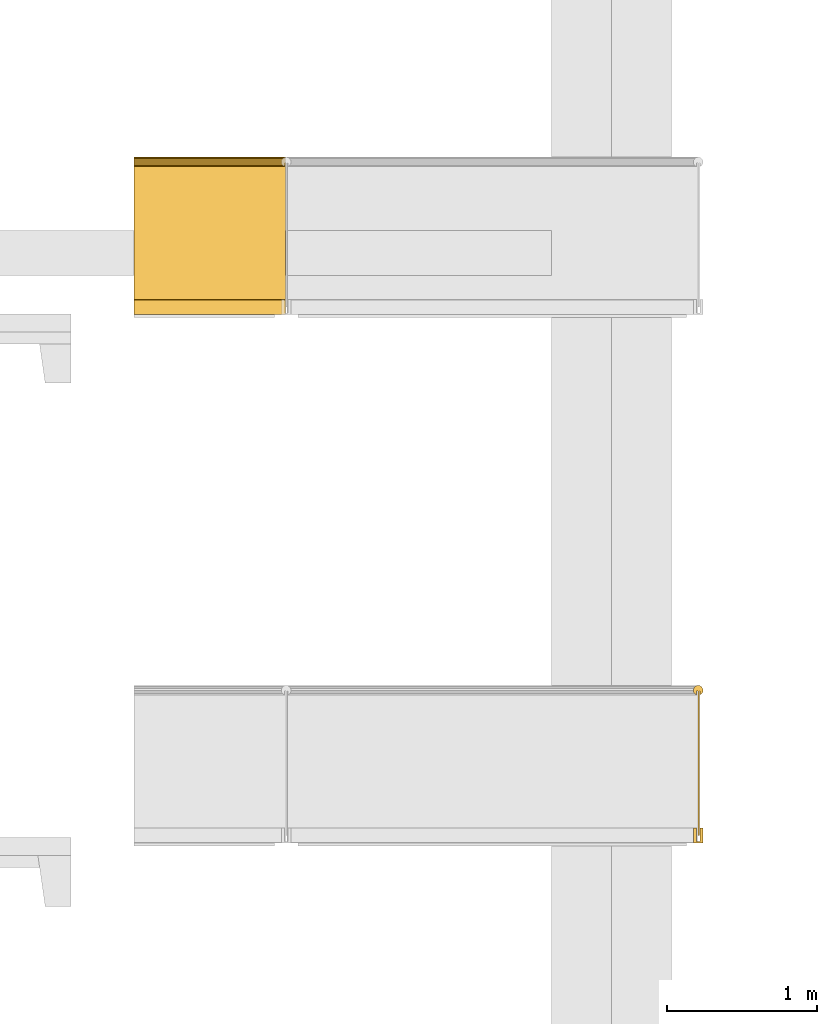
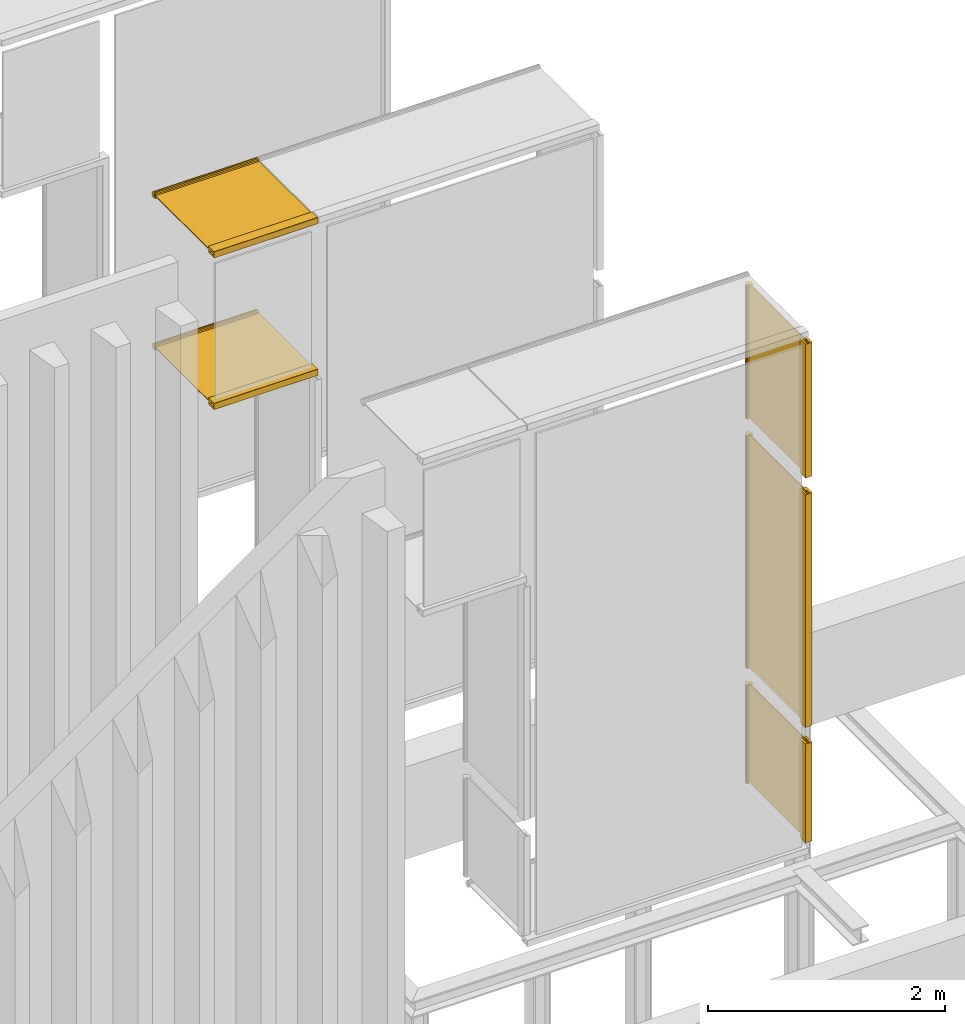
# One storey, part 8 of 15: 5 railings.
"""IFC2X3 building model written with IfcOpenShell, lengths in metres."""

from ifc_helpers import new_model, entity, si_unit, converted_unit, derived_unit, money_unit, direction, frame, origin_with_axes, place, context, subcontext, project, spatial, faceted_brep, material, type_object, element, save


model = new_model("IFC2X3")

# Units and contexts
model_context = context("Model", 3, precision=1e-05, world=origin_with_axes(), true_north=direction((0.0, 1.0)))
body_context = subcontext(model_context, "Body", "Model", "MODEL_VIEW", scale=1.0)
ifc_project = project(units=[si_unit("LENGTHUNIT", "METRE"), si_unit("AREAUNIT", "SQUARE_METRE"), si_unit("VOLUMEUNIT", "CUBIC_METRE"), si_unit("ABSORBEDDOSEUNIT", "GRAY"), si_unit("AMOUNTOFSUBSTANCEUNIT", "MOLE"), si_unit("DOSEEQUIVALENTUNIT", "SIEVERT"), si_unit("ELECTRICCAPACITANCEUNIT", "FARAD"), si_unit("ELECTRICCHARGEUNIT", "COULOMB"), si_unit("ELECTRICCONDUCTANCEUNIT", "SIEMENS"), si_unit("ELECTRICCURRENTUNIT", "AMPERE"), si_unit("ELECTRICRESISTANCEUNIT", "OHM"), si_unit("ELECTRICVOLTAGEUNIT", "VOLT"), si_unit("ENERGYUNIT", "JOULE"), si_unit("FORCEUNIT", "NEWTON"), si_unit("FREQUENCYUNIT", "HERTZ"), si_unit("ILLUMINANCEUNIT", "LUX"), si_unit("INDUCTANCEUNIT", "HENRY"), si_unit("LUMINOUSFLUXUNIT", "LUMEN"), si_unit("LUMINOUSINTENSITYUNIT", "CANDELA"), si_unit("MAGNETICFLUXDENSITYUNIT", "TESLA"), si_unit("MAGNETICFLUXUNIT", "WEBER"), si_unit("MASSUNIT", "GRAM"), converted_unit("PLANEANGLEUNIT", "degree", entity("IfcReal", 0.0174532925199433), si_unit("PLANEANGLEUNIT", "RADIAN"), dimensions=[0, 0, 0, 0, 0, 0, 0]), si_unit("POWERUNIT", "WATT"), si_unit("PRESSUREUNIT", "PASCAL"), si_unit("RADIOACTIVITYUNIT", "BECQUEREL"), si_unit("SOLIDANGLEUNIT", "STERADIAN"), si_unit("THERMODYNAMICTEMPERATUREUNIT", "KELVIN"), si_unit("TIMEUNIT", "SECOND"), derived_unit("ACCELERATIONUNIT", [(si_unit("LENGTHUNIT", "METRE"), 1), (si_unit("TIMEUNIT", "SECOND"), -2)]), derived_unit("ANGULARVELOCITYUNIT", [(converted_unit("PLANEANGLEUNIT", "degree", entity("IfcReal", 0.0174532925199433), si_unit("PLANEANGLEUNIT", "RADIAN"), dimensions=[0, 0, 0, 0, 0, 0, 0]), 1), (si_unit("TIMEUNIT", "SECOND"), -1)]), derived_unit("CURVATUREUNIT", [(converted_unit("PLANEANGLEUNIT", "degree", entity("IfcReal", 0.0174532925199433), si_unit("PLANEANGLEUNIT", "RADIAN"), dimensions=[0, 0, 0, 0, 0, 0, 0]), 1), (si_unit("LENGTHUNIT", "METRE"), -1)]), derived_unit("DYNAMICVISCOSITYUNIT", [(si_unit("PRESSUREUNIT", "PASCAL"), 1), (si_unit("TIMEUNIT", "SECOND"), 1)]), derived_unit("HEATFLUXDENSITYUNIT", [(si_unit("POWERUNIT", "WATT"), 1), (si_unit("LENGTHUNIT", "METRE"), -2)]), derived_unit("HEATINGVALUEUNIT", [(si_unit("ENERGYUNIT", "JOULE"), 1), (si_unit("MASSUNIT", "GRAM"), -1)]), derived_unit("INTEGERCOUNTRATEUNIT", [(si_unit("TIMEUNIT", "SECOND"), -1)]), derived_unit("IONCONCENTRATIONUNIT", [(si_unit("MASSUNIT", "GRAM"), 1), (si_unit("VOLUMEUNIT", "CUBIC_METRE"), -1)]), derived_unit("ISOTHERMALMOISTURECAPACITYUNIT", [(si_unit("VOLUMEUNIT", "CUBIC_METRE"), 1), (si_unit("MASSUNIT", "GRAM"), -1)]), derived_unit("KINEMATICVISCOSITYUNIT", [(si_unit("AREAUNIT", "SQUARE_METRE"), 1), (si_unit("TIMEUNIT", "SECOND"), -1)]), derived_unit("LINEARFORCEUNIT", [(si_unit("FORCEUNIT", "NEWTON"), 1), (si_unit("LENGTHUNIT", "METRE"), -1)]), derived_unit("LINEARMOMENTUNIT", [(si_unit("FORCEUNIT", "NEWTON"), 1), (si_unit("LENGTHUNIT", "METRE"), -1)]), derived_unit("LINEARSTIFFNESSUNIT", [(si_unit("FORCEUNIT", "NEWTON"), 1), (si_unit("LENGTHUNIT", "METRE"), -1)]), derived_unit("LINEARVELOCITYUNIT", [(si_unit("LENGTHUNIT", "METRE"), 1), (si_unit("TIMEUNIT", "SECOND"), -1)]), derived_unit("LUMINOUSINTENSITYDISTRIBUTIONUNIT", [(si_unit("LUMINOUSINTENSITYUNIT", "CANDELA"), 1), (si_unit("LUMINOUSFLUXUNIT", "LUMEN"), -1)]), derived_unit("MASSDENSITYUNIT", [(si_unit("MASSUNIT", "GRAM"), 1), (si_unit("VOLUMEUNIT", "CUBIC_METRE"), -1)]), derived_unit("MASSFLOWRATEUNIT", [(si_unit("MASSUNIT", "GRAM"), 1), (si_unit("TIMEUNIT", "SECOND"), -1)]), derived_unit("MASSPERLENGTHUNIT", [(si_unit("MASSUNIT", "GRAM"), 1), (si_unit("LENGTHUNIT", "METRE"), -1)]), derived_unit("MODULUSOFELASTICITYUNIT", [(si_unit("FORCEUNIT", "NEWTON"), 1), (si_unit("AREAUNIT", "SQUARE_METRE"), -1)]), derived_unit("MODULUSOFLINEARSUBGRADEREACTIONUNIT", [(si_unit("FORCEUNIT", "NEWTON"), 1), (si_unit("LENGTHUNIT", "METRE"), -2)]), derived_unit("MODULUSOFROTATIONALSUBGRADEREACTIONUNIT", [(si_unit("FORCEUNIT", "NEWTON"), 1), (si_unit("LENGTHUNIT", "METRE"), 1)]), derived_unit("MODULUSOFSUBGRADEREACTIONUNIT", [(si_unit("FORCEUNIT", "NEWTON"), 1), (si_unit("VOLUMEUNIT", "CUBIC_METRE"), -1)]), derived_unit("MOISTUREDIFFUSIVITYUNIT", [(si_unit("VOLUMEUNIT", "CUBIC_METRE"), 1), (si_unit("TIMEUNIT", "SECOND"), -1)]), derived_unit("MOLECULARWEIGHTUNIT", [(si_unit("MASSUNIT", "GRAM"), 1), (si_unit("AMOUNTOFSUBSTANCEUNIT", "MOLE"), -1)]), derived_unit("PLANARFORCEUNIT", [(si_unit("FORCEUNIT", "NEWTON"), 1), (si_unit("LENGTHUNIT", "METRE"), -2)]), derived_unit("ROTATIONALFREQUENCYUNIT", [(si_unit("TIMEUNIT", "SECOND"), -1)]), derived_unit("ROTATIONALMASSUNIT", [(si_unit("MASSUNIT", "GRAM"), 1), (si_unit("LENGTHUNIT", "METRE"), 2)]), derived_unit("ROTATIONALSTIFFNESSUNIT", [(si_unit("FORCEUNIT", "NEWTON"), 1), (si_unit("LENGTHUNIT", "METRE"), 1), (converted_unit("PLANEANGLEUNIT", "degree", entity("IfcReal", 0.0174532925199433), si_unit("PLANEANGLEUNIT", "RADIAN"), dimensions=[0, 0, 0, 0, 0, 0, 0]), -1)]), derived_unit("SECTIONAREAINTEGRALUNIT", [(si_unit("LENGTHUNIT", "METRE"), 5)]), derived_unit("SECTIONMODULUSUNIT", [(si_unit("LENGTHUNIT", "METRE"), 3)]), derived_unit("SHEARMODULUSUNIT", [(si_unit("FORCEUNIT", "NEWTON"), 1), (si_unit("AREAUNIT", "SQUARE_METRE"), -1)]), derived_unit("SOUNDPOWERUNIT", [(si_unit("ENERGYUNIT", "JOULE"), 1), (si_unit("TIMEUNIT", "SECOND"), -1)]), derived_unit("SPECIFICHEATCAPACITYUNIT", [(si_unit("FORCEUNIT", "NEWTON"), 1), (si_unit("MASSUNIT", "GRAM"), -1), (si_unit("THERMODYNAMICTEMPERATUREUNIT", "KELVIN"), -1)]), derived_unit("TEMPERATUREGRADIENTUNIT", [(si_unit("THERMODYNAMICTEMPERATUREUNIT", "KELVIN"), 1), (si_unit("LENGTHUNIT", "METRE"), -1)]), derived_unit("THERMALADMITTANCEUNIT", [(si_unit("POWERUNIT", "WATT"), 1), (si_unit("AREAUNIT", "SQUARE_METRE"), -1), (si_unit("THERMODYNAMICTEMPERATUREUNIT", "KELVIN"), -1)]), derived_unit("THERMALCONDUCTANCEUNIT", [(si_unit("POWERUNIT", "WATT"), 1), (si_unit("LENGTHUNIT", "METRE"), -1), (si_unit("THERMODYNAMICTEMPERATUREUNIT", "KELVIN"), -1)]), derived_unit("THERMALEXPANSIONCOEFFICIENTUNIT", [(si_unit("THERMODYNAMICTEMPERATUREUNIT", "KELVIN"), -1)]), derived_unit("THERMALRESISTANCEUNIT", [(si_unit("AREAUNIT", "SQUARE_METRE"), 1), (si_unit("POWERUNIT", "WATT"), -1)]), derived_unit("THERMALTRANSMITTANCEUNIT", [(si_unit("POWERUNIT", "WATT"), 1), (si_unit("AREAUNIT", "SQUARE_METRE"), -1), (si_unit("THERMODYNAMICTEMPERATUREUNIT", "KELVIN"), -1)]), derived_unit("TORQUEUNIT", [(si_unit("FORCEUNIT", "NEWTON"), 1), (si_unit("LENGTHUNIT", "METRE"), 1)]), derived_unit("VAPORPERMEABILITYUNIT", [(si_unit("MASSUNIT", "GRAM"), 1), (si_unit("TIMEUNIT", "SECOND"), -1)]), derived_unit("VOLUMETRICFLOWRATEUNIT", [(si_unit("VOLUMEUNIT", "CUBIC_METRE"), 1), (si_unit("TIMEUNIT", "SECOND"), -1)]), derived_unit("WARPINGCONSTANTUNIT", [(si_unit("LENGTHUNIT", "METRE"), 6)]), derived_unit("WARPINGMOMENTUNIT", [(si_unit("FORCEUNIT", "NEWTON"), 1), (si_unit("LENGTHUNIT", "METRE"), 2)]), money_unit("GBP")], contexts=[model_context])

# Site, building, storey
site_placement = place(None, origin_with_axes())
site = spatial("IfcSite", under=ifc_project, at=site_placement, Name="Site", CompositionType="ELEMENT")
building_placement = place(site_placement, origin_with_axes())
building = spatial("IfcBuilding", under=site, at=building_placement, Name="Building01", CompositionType="ELEMENT")
storey_placement = place(building_placement, origin_with_axes())
storey = spatial("IfcBuildingStorey", under=building, at=storey_placement, Name="GF", CompositionType="ELEMENT", Elevation=0.0)

# Railings
ifc_material = material(Name="A_BSUK_Steel_Miscellaneous")
railing_type = type_object("IfcRailingType", Name="A-RailingGlassPanel-1050mm", PredefinedType="NOTDEFINED")
railing_1_placement = place(storey_placement, frame((14.9, 8.587442, 26.411335), z_axis=(0.0, 1.0, 0.0), x_axis=(0.0, 0.0, 1.0)))
element("IfcRailing", 1, at=railing_1_placement, inside=storey, type_object=railing_type, material=ifc_material, Name="A-RailingGlassPanel-1050mm", ObjectType="A-RailingGlassPanel-1050mm", PredefinedType="HANDRAIL", context=body_context, shape_type="Brep", body=[
    faceted_brep([(-0.0125, 1.010381, 0.9875), (-0.0125, 0.0, 0.9875), (-0.023022, 0.0, 0.99456), (-0.023022, 1.010381, 0.99456), (-0.030045, 0.0, 1.005108), (-0.030045, 1.010381, 1.005108), (-0.0325, 0.0, 1.017539), (-0.0325, 1.010381, 1.017539), (-0.030015, 0.0, 1.029964), (-0.030015, 1.010381, 1.029964), (-0.022967, 0.0, 1.040495), (-0.022967, 1.010381, 1.040495), (-0.012428, 0.0, 1.04753), (-0.012428, 1.010381, 1.04753), (0.0, 0.0, 1.05), (0.0, 1.010381, 1.05), (0.012428, 0.0, 1.04753), (0.012428, 1.010381, 1.04753), (0.022967, 0.0, 1.040495), (0.022967, 1.010381, 1.040495), (0.030015, 0.0, 1.029964), (0.030015, 1.010381, 1.029964), (0.0325, 0.0, 1.017539), (0.0325, 1.010381, 1.017539), (0.030045, 0.0, 1.005108), (0.030045, 1.010381, 1.005108), (0.023022, 0.0, 0.99456), (0.023022, 1.010381, 0.99456), (0.0125, 0.0, 0.9875), (0.0125, 1.010381, 0.9875), (-0.0125, 1.010381, 1.0125), (-0.0125, 0.0, 1.0125), (0.0125, 1.010381, 1.0125), (0.0125, 0.0, 1.0125)], [[[0, 1, 2, 3]], [[3, 2, 4, 5]], [[5, 4, 6, 7]], [[7, 6, 8, 9]], [[9, 8, 10, 11]], [[11, 10, 12, 13]], [[13, 12, 14, 15]], [[15, 14, 16, 17]], [[17, 16, 18, 19]], [[19, 18, 20, 21]], [[21, 20, 22, 23]], [[23, 22, 24, 25]], [[25, 24, 26, 27]], [[27, 26, 28, 29]], [[0, 30, 31, 1]], [[30, 32, 33, 31]], [[32, 30, 0, 3, 5, 7, 9, 11, 13, 15, 17, 19, 21, 23, 25, 27, 29]], [[32, 29, 28, 33]], [[28, 26, 24, 22, 20, 18, 16, 14, 12, 10, 8, 6, 4, 2, 1, 31, 33]]]),
    faceted_brep([(-0.0295, 1.010381, 0.099925), (-0.0295, 0.0, 0.099925), (-0.0125, 0.0, 0.099925), (-0.0125, 1.010381, 0.099925), (-0.0325, 1.010381, 0.096925), (-0.0325, 0.0, 0.096925), (-0.032272, 0.0, 0.098073), (-0.032272, 1.010381, 0.098073), (-0.031621, 0.0, 0.099046), (-0.031621, 1.010381, 0.099046), (-0.030648, 0.0, 0.099697), (-0.030648, 1.010381, 0.099697), (-0.0325, 1.010381, 0.003), (-0.0325, 0.0, 0.003), (-0.0295, 1.010381, 0.0), (-0.030648, 1.010381, 0.000228), (-0.031621, 1.010381, 0.000879), (-0.032272, 1.010381, 0.001852), (-0.0125, 1.010381, 0.01), (0.0125, 1.010381, 0.01), (0.0125, 1.010381, 0.099925), (0.0295, 1.010381, 0.099925), (0.030648, 1.010381, 0.099697), (0.031621, 1.010381, 0.099046), (0.032272, 1.010381, 0.098073), (0.0325, 1.010381, 0.096925), (0.0325, 1.010381, 0.003), (0.032272, 1.010381, 0.001852), (0.031621, 1.010381, 0.000879), (0.030648, 1.010381, 0.000228), (0.0295, 1.010381, 0.0), (0.0295, 0.0, 0.0), (0.030648, 0.0, 0.000228), (0.031621, 0.0, 0.000879), (0.032272, 0.0, 0.001852), (0.0325, 0.0, 0.003), (0.0325, 0.0, 0.096925), (0.032272, 0.0, 0.098073), (0.031621, 0.0, 0.099046), (0.030648, 0.0, 0.099697), (0.0295, 0.0, 0.099925), (0.0125, 0.0, 0.099925), (0.0125, 0.0, 0.01), (-0.0125, 0.0, 0.01), (-0.032272, 0.0, 0.001852), (-0.031621, 0.0, 0.000879), (-0.030648, 0.0, 0.000228), (-0.0295, 0.0, 0.0)], [[[0, 1, 2, 3]], [[4, 5, 6, 7]], [[7, 6, 8, 9]], [[9, 8, 10, 11]], [[11, 10, 1, 0]], [[4, 12, 13, 5]], [[14, 15, 16, 17, 12, 4, 7, 9, 11, 0, 3, 18, 19, 20, 21, 22, 23, 24, 25, 26, 27, 28, 29, 30]], [[31, 32, 33, 34, 35, 36, 37, 38, 39, 40, 41, 42, 43, 2, 1, 10, 8, 6, 5, 13, 44, 45, 46, 47]], [[14, 47, 46, 15]], [[15, 46, 45, 16]], [[16, 45, 44, 17]], [[17, 44, 13, 12]], [[14, 30, 31, 47]], [[26, 35, 34, 27]], [[27, 34, 33, 28]], [[28, 33, 32, 29]], [[29, 32, 31, 30]], [[26, 25, 36, 35]], [[21, 40, 39, 22]], [[22, 39, 38, 23]], [[23, 38, 37, 24]], [[24, 37, 36, 25]], [[21, 20, 41, 40]], [[20, 19, 42, 41]], [[19, 18, 43, 42]], [[18, 3, 2, 43]]]),
    faceted_brep([(0.0, 0.0, 0.05), (0.0, 0.0, 1.025), (0.0, 1.010381, 1.025), (0.0, 1.010381, 0.05), (0.01, 1.010381, 0.05), (0.01, 1.010381, 1.025), (0.01, 0.0, 1.025), (0.01, 0.0, 0.05)], [[[0, 1, 2, 3]], [[4, 5, 6, 7]], [[0, 7, 6, 1]], [[1, 6, 5, 2]], [[2, 5, 4, 3]], [[3, 4, 7, 0]]]),
])
railing_2_placement = place(storey_placement, frame((18.663481, 5.064467, 22.199835), z_axis=(0.0, 1.0, 0.0), x_axis=(0.0, 0.0, 1.0)))
element("IfcRailing", 2, at=railing_2_placement, inside=storey, type_object=railing_type, material=ifc_material, Name="A-RailingGlassPanel-1050mm", ObjectType="A-RailingGlassPanel-1050mm", PredefinedType="HANDRAIL", context=body_context, shape_type="Brep", body=[
    faceted_brep([(-1.018201, -0.0125, 0.9875), (0.0, -0.0125, 0.9875), (0.0, -0.023022, 0.99456), (-1.018201, -0.023022, 0.99456), (0.0, -0.030045, 1.005108), (-1.018201, -0.030045, 1.005108), (0.0, -0.0325, 1.017539), (-1.018201, -0.0325, 1.017539), (0.0, -0.030015, 1.029964), (-1.018201, -0.030015, 1.029964), (0.0, -0.022967, 1.040495), (-1.018201, -0.022967, 1.040495), (0.0, -0.012428, 1.04753), (-1.018201, -0.012428, 1.04753), (0.0, 0.0, 1.05), (-1.018201, 0.0, 1.05), (0.0, 0.012428, 1.04753), (-1.018201, 0.012428, 1.04753), (0.0, 0.022967, 1.040495), (-1.018201, 0.022967, 1.040495), (0.0, 0.030015, 1.029964), (-1.018201, 0.030015, 1.029964), (0.0, 0.0325, 1.017539), (-1.018201, 0.0325, 1.017539), (0.0, 0.030045, 1.005108), (-1.018201, 0.030045, 1.005108), (0.0, 0.023022, 0.99456), (-1.018201, 0.023022, 0.99456), (0.0, 0.0125, 0.9875), (-1.018201, 0.0125, 0.9875), (-1.018201, -0.0125, 1.0125), (0.0, -0.0125, 1.0125), (-1.018201, 0.0125, 1.0125), (0.0, 0.0125, 1.0125)], [[[0, 1, 2, 3]], [[3, 2, 4, 5]], [[5, 4, 6, 7]], [[7, 6, 8, 9]], [[9, 8, 10, 11]], [[11, 10, 12, 13]], [[13, 12, 14, 15]], [[15, 14, 16, 17]], [[17, 16, 18, 19]], [[19, 18, 20, 21]], [[21, 20, 22, 23]], [[23, 22, 24, 25]], [[25, 24, 26, 27]], [[27, 26, 28, 29]], [[0, 30, 31, 1]], [[30, 32, 33, 31]], [[32, 30, 0, 3, 5, 7, 9, 11, 13, 15, 17, 19, 21, 23, 25, 27, 29]], [[32, 29, 28, 33]], [[28, 26, 24, 22, 20, 18, 16, 14, 12, 10, 8, 6, 4, 2, 1, 31, 33]]]),
    faceted_brep([(-1.018201, -0.0295, 0.099925), (0.0, -0.0295, 0.099925), (0.0, -0.0125, 0.099925), (-1.018201, -0.0125, 0.099925), (-1.018201, -0.0325, 0.096925), (0.0, -0.0325, 0.096925), (0.0, -0.032272, 0.098073), (-1.018201, -0.032272, 0.098073), (0.0, -0.031621, 0.099046), (-1.018201, -0.031621, 0.099046), (0.0, -0.030648, 0.099697), (-1.018201, -0.030648, 0.099697), (-1.018201, -0.0325, 0.003), (0.0, -0.0325, 0.003), (-1.018201, -0.0295, 0.0), (-1.018201, -0.030648, 0.000228), (-1.018201, -0.031621, 0.000879), (-1.018201, -0.032272, 0.001852), (-1.018201, -0.0125, 0.01), (-1.018201, 0.0125, 0.01), (-1.018201, 0.0125, 0.099925), (-1.018201, 0.0295, 0.099925), (-1.018201, 0.030648, 0.099697), (-1.018201, 0.031621, 0.099046), (-1.018201, 0.032272, 0.098073), (-1.018201, 0.0325, 0.096925), (-1.018201, 0.0325, 0.003), (-1.018201, 0.032272, 0.001852), (-1.018201, 0.031621, 0.000879), (-1.018201, 0.030648, 0.000228), (-1.018201, 0.0295, 0.0), (0.0, 0.0295, 0.0), (0.0, 0.030648, 0.000228), (0.0, 0.031621, 0.000879), (0.0, 0.032272, 0.001852), (0.0, 0.0325, 0.003), (0.0, 0.0325, 0.096925), (0.0, 0.032272, 0.098073), (0.0, 0.031621, 0.099046), (0.0, 0.030648, 0.099697), (0.0, 0.0295, 0.099925), (0.0, 0.0125, 0.099925), (0.0, 0.0125, 0.01), (0.0, -0.0125, 0.01), (0.0, -0.032272, 0.001852), (0.0, -0.031621, 0.000879), (0.0, -0.030648, 0.000228), (0.0, -0.0295, 0.0)], [[[0, 1, 2, 3]], [[4, 5, 6, 7]], [[7, 6, 8, 9]], [[9, 8, 10, 11]], [[11, 10, 1, 0]], [[4, 12, 13, 5]], [[14, 15, 16, 17, 12, 4, 7, 9, 11, 0, 3, 18, 19, 20, 21, 22, 23, 24, 25, 26, 27, 28, 29, 30]], [[31, 32, 33, 34, 35, 36, 37, 38, 39, 40, 41, 42, 43, 2, 1, 10, 8, 6, 5, 13, 44, 45, 46, 47]], [[14, 47, 46, 15]], [[15, 46, 45, 16]], [[16, 45, 44, 17]], [[17, 44, 13, 12]], [[14, 30, 31, 47]], [[26, 35, 34, 27]], [[27, 34, 33, 28]], [[28, 33, 32, 29]], [[29, 32, 31, 30]], [[26, 25, 36, 35]], [[21, 40, 39, 22]], [[22, 39, 38, 23]], [[23, 38, 37, 24]], [[24, 37, 36, 25]], [[21, 20, 41, 40]], [[20, 19, 42, 41]], [[19, 18, 43, 42]], [[18, 3, 2, 43]]]),
    faceted_brep([(0.0, 0.0, 0.05), (0.0, 0.0, 1.025), (-1.018201, 0.0, 1.025), (-1.018201, 0.0, 0.05), (-1.018201, 0.01, 0.05), (-1.018201, 0.01, 1.025), (0.0, 0.01, 1.025), (0.0, 0.01, 0.05)], [[[0, 1, 2, 3]], [[4, 5, 6, 7]], [[0, 7, 6, 1]], [[1, 6, 5, 2]], [[2, 5, 4, 3]], [[3, 4, 7, 0]]]),
])
railing_3_placement = place(storey_placement, frame((18.663481, 5.064467, 24.769835), z_axis=(0.0, 1.0, 0.0), x_axis=(0.0, 0.0, 1.0)))
element("IfcRailing", 3, at=railing_3_placement, inside=storey, type_object=railing_type, material=ifc_material, Name="A-RailingGlassPanel-1050mm", ObjectType="A-RailingGlassPanel-1050mm", PredefinedType="HANDRAIL", context=body_context, shape_type="Brep", body=[
    faceted_brep([(-2.3998, -0.0125, 0.9875), (0.0, -0.0125, 0.9875), (0.0, -0.023022, 0.99456), (-2.3998, -0.023022, 0.99456), (0.0, -0.030045, 1.005108), (-2.3998, -0.030045, 1.005108), (0.0, -0.0325, 1.017539), (-2.3998, -0.0325, 1.017539), (0.0, -0.030015, 1.029964), (-2.3998, -0.030015, 1.029964), (0.0, -0.022967, 1.040495), (-2.3998, -0.022967, 1.040495), (0.0, -0.012428, 1.04753), (-2.3998, -0.012428, 1.04753), (0.0, 0.0, 1.05), (-2.3998, 0.0, 1.05), (0.0, 0.012428, 1.04753), (-2.3998, 0.012428, 1.04753), (0.0, 0.022967, 1.040495), (-2.3998, 0.022967, 1.040495), (0.0, 0.030015, 1.029964), (-2.3998, 0.030015, 1.029964), (0.0, 0.0325, 1.017539), (-2.3998, 0.0325, 1.017539), (0.0, 0.030045, 1.005108), (-2.3998, 0.030045, 1.005108), (0.0, 0.023022, 0.99456), (-2.3998, 0.023022, 0.99456), (0.0, 0.0125, 0.9875), (-2.3998, 0.0125, 0.9875), (-2.3998, -0.0125, 1.0125), (0.0, -0.0125, 1.0125), (-2.3998, 0.0125, 1.0125), (0.0, 0.0125, 1.0125)], [[[0, 1, 2, 3]], [[3, 2, 4, 5]], [[5, 4, 6, 7]], [[7, 6, 8, 9]], [[9, 8, 10, 11]], [[11, 10, 12, 13]], [[13, 12, 14, 15]], [[15, 14, 16, 17]], [[17, 16, 18, 19]], [[19, 18, 20, 21]], [[21, 20, 22, 23]], [[23, 22, 24, 25]], [[25, 24, 26, 27]], [[27, 26, 28, 29]], [[0, 30, 31, 1]], [[30, 32, 33, 31]], [[32, 30, 0, 3, 5, 7, 9, 11, 13, 15, 17, 19, 21, 23, 25, 27, 29]], [[32, 29, 28, 33]], [[28, 26, 24, 22, 20, 18, 16, 14, 12, 10, 8, 6, 4, 2, 1, 31, 33]]]),
    faceted_brep([(-2.3998, -0.0295, 0.099925), (0.0, -0.0295, 0.099925), (0.0, -0.0125, 0.099925), (-2.3998, -0.0125, 0.099925), (-2.3998, -0.0325, 0.096925), (0.0, -0.0325, 0.096925), (0.0, -0.032272, 0.098073), (-2.3998, -0.032272, 0.098073), (0.0, -0.031621, 0.099046), (-2.3998, -0.031621, 0.099046), (0.0, -0.030648, 0.099697), (-2.3998, -0.030648, 0.099697), (-2.3998, -0.0325, 0.003), (0.0, -0.0325, 0.003), (-2.3998, -0.0295, 0.0), (-2.3998, -0.030648, 0.000228), (-2.3998, -0.031621, 0.000879), (-2.3998, -0.032272, 0.001852), (-2.3998, -0.0125, 0.01), (-2.3998, 0.0125, 0.01), (-2.3998, 0.0125, 0.099925), (-2.3998, 0.0295, 0.099925), (-2.3998, 0.030648, 0.099697), (-2.3998, 0.031621, 0.099046), (-2.3998, 0.032272, 0.098073), (-2.3998, 0.0325, 0.096925), (-2.3998, 0.0325, 0.003), (-2.3998, 0.032272, 0.001852), (-2.3998, 0.031621, 0.000879), (-2.3998, 0.030648, 0.000228), (-2.3998, 0.0295, 0.0), (0.0, 0.0295, 0.0), (0.0, 0.030648, 0.000228), (0.0, 0.031621, 0.000879), (0.0, 0.032272, 0.001852), (0.0, 0.0325, 0.003), (0.0, 0.0325, 0.096925), (0.0, 0.032272, 0.098073), (0.0, 0.031621, 0.099046), (0.0, 0.030648, 0.099697), (0.0, 0.0295, 0.099925), (0.0, 0.0125, 0.099925), (0.0, 0.0125, 0.01), (0.0, -0.0125, 0.01), (0.0, -0.032272, 0.001852), (0.0, -0.031621, 0.000879), (0.0, -0.030648, 0.000228), (0.0, -0.0295, 0.0)], [[[0, 1, 2, 3]], [[4, 5, 6, 7]], [[7, 6, 8, 9]], [[9, 8, 10, 11]], [[11, 10, 1, 0]], [[4, 12, 13, 5]], [[14, 15, 16, 17, 12, 4, 7, 9, 11, 0, 3, 18, 19, 20, 21, 22, 23, 24, 25, 26, 27, 28, 29, 30]], [[31, 32, 33, 34, 35, 36, 37, 38, 39, 40, 41, 42, 43, 2, 1, 10, 8, 6, 5, 13, 44, 45, 46, 47]], [[14, 47, 46, 15]], [[15, 46, 45, 16]], [[16, 45, 44, 17]], [[17, 44, 13, 12]], [[14, 30, 31, 47]], [[26, 35, 34, 27]], [[27, 34, 33, 28]], [[28, 33, 32, 29]], [[29, 32, 31, 30]], [[26, 25, 36, 35]], [[21, 40, 39, 22]], [[22, 39, 38, 23]], [[23, 38, 37, 24]], [[24, 37, 36, 25]], [[21, 20, 41, 40]], [[20, 19, 42, 41]], [[19, 18, 43, 42]], [[18, 3, 2, 43]]]),
    faceted_brep([(0.0, 0.0, 0.05), (0.0, 0.0, 1.025), (-2.3998, 0.0, 1.025), (-2.3998, 0.0, 0.05), (-2.3998, 0.01, 0.05), (-2.3998, 0.01, 1.025), (0.0, 0.01, 1.025), (0.0, 0.01, 0.05)], [[[0, 1, 2, 3]], [[4, 5, 6, 7]], [[0, 7, 6, 1]], [[1, 6, 5, 2]], [[2, 5, 4, 3]], [[3, 4, 7, 0]]]),
])
railing_4_placement = place(storey_placement, frame((18.663481, 5.064467, 26.319835), z_axis=(0.0, 1.0, 0.0), x_axis=(0.0, 0.0, 1.0)))
element("IfcRailing", 4, at=railing_4_placement, inside=storey, type_object=railing_type, material=ifc_material, Name="A-RailingGlassPanel-1050mm", ObjectType="A-RailingGlassPanel-1050mm", PredefinedType="HANDRAIL", context=body_context, shape_type="Brep", body=[
    faceted_brep([(-1.3798, -0.0125, 0.9875), (0.0, -0.0125, 0.9875), (0.0, -0.023022, 0.99456), (-1.3798, -0.023022, 0.99456), (0.0, -0.030045, 1.005108), (-1.3798, -0.030045, 1.005108), (0.0, -0.0325, 1.017539), (-1.3798, -0.0325, 1.017539), (0.0, -0.030015, 1.029964), (-1.3798, -0.030015, 1.029964), (0.0, -0.022967, 1.040495), (-1.3798, -0.022967, 1.040495), (0.0, -0.012428, 1.04753), (-1.3798, -0.012428, 1.04753), (0.0, 0.0, 1.05), (-1.3798, 0.0, 1.05), (0.0, 0.012428, 1.04753), (-1.3798, 0.012428, 1.04753), (0.0, 0.022967, 1.040495), (-1.3798, 0.022967, 1.040495), (0.0, 0.030015, 1.029964), (-1.3798, 0.030015, 1.029964), (0.0, 0.0325, 1.017539), (-1.3798, 0.0325, 1.017539), (0.0, 0.030045, 1.005108), (-1.3798, 0.030045, 1.005108), (0.0, 0.023022, 0.99456), (-1.3798, 0.023022, 0.99456), (0.0, 0.0125, 0.9875), (-1.3798, 0.0125, 0.9875), (-1.3798, -0.0125, 1.0125), (0.0, -0.0125, 1.0125), (-1.3798, 0.0125, 1.0125), (0.0, 0.0125, 1.0125)], [[[0, 1, 2, 3]], [[3, 2, 4, 5]], [[5, 4, 6, 7]], [[7, 6, 8, 9]], [[9, 8, 10, 11]], [[11, 10, 12, 13]], [[13, 12, 14, 15]], [[15, 14, 16, 17]], [[17, 16, 18, 19]], [[19, 18, 20, 21]], [[21, 20, 22, 23]], [[23, 22, 24, 25]], [[25, 24, 26, 27]], [[27, 26, 28, 29]], [[0, 30, 31, 1]], [[30, 32, 33, 31]], [[32, 30, 0, 3, 5, 7, 9, 11, 13, 15, 17, 19, 21, 23, 25, 27, 29]], [[32, 29, 28, 33]], [[28, 26, 24, 22, 20, 18, 16, 14, 12, 10, 8, 6, 4, 2, 1, 31, 33]]]),
    faceted_brep([(-1.3798, -0.0295, 0.099925), (0.0, -0.0295, 0.099925), (0.0, -0.0125, 0.099925), (-1.3798, -0.0125, 0.099925), (-1.3798, -0.0325, 0.096925), (0.0, -0.0325, 0.096925), (0.0, -0.032272, 0.098073), (-1.3798, -0.032272, 0.098073), (0.0, -0.031621, 0.099046), (-1.3798, -0.031621, 0.099046), (0.0, -0.030648, 0.099697), (-1.3798, -0.030648, 0.099697), (-1.3798, -0.0325, 0.003), (0.0, -0.0325, 0.003), (-1.3798, -0.0295, 0.0), (-1.3798, -0.030648, 0.000228), (-1.3798, -0.031621, 0.000879), (-1.3798, -0.032272, 0.001852), (-1.3798, -0.0125, 0.01), (-1.3798, 0.0125, 0.01), (-1.3798, 0.0125, 0.099925), (-1.3798, 0.0295, 0.099925), (-1.3798, 0.030648, 0.099697), (-1.3798, 0.031621, 0.099046), (-1.3798, 0.032272, 0.098073), (-1.3798, 0.0325, 0.096925), (-1.3798, 0.0325, 0.003), (-1.3798, 0.032272, 0.001852), (-1.3798, 0.031621, 0.000879), (-1.3798, 0.030648, 0.000228), (-1.3798, 0.0295, 0.0), (0.0, 0.0295, 0.0), (0.0, 0.030648, 0.000228), (0.0, 0.031621, 0.000879), (0.0, 0.032272, 0.001852), (0.0, 0.0325, 0.003), (0.0, 0.0325, 0.096925), (0.0, 0.032272, 0.098073), (0.0, 0.031621, 0.099046), (0.0, 0.030648, 0.099697), (0.0, 0.0295, 0.099925), (0.0, 0.0125, 0.099925), (0.0, 0.0125, 0.01), (0.0, -0.0125, 0.01), (0.0, -0.032272, 0.001852), (0.0, -0.031621, 0.000879), (0.0, -0.030648, 0.000228), (0.0, -0.0295, 0.0)], [[[0, 1, 2, 3]], [[4, 5, 6, 7]], [[7, 6, 8, 9]], [[9, 8, 10, 11]], [[11, 10, 1, 0]], [[4, 12, 13, 5]], [[14, 15, 16, 17, 12, 4, 7, 9, 11, 0, 3, 18, 19, 20, 21, 22, 23, 24, 25, 26, 27, 28, 29, 30]], [[31, 32, 33, 34, 35, 36, 37, 38, 39, 40, 41, 42, 43, 2, 1, 10, 8, 6, 5, 13, 44, 45, 46, 47]], [[14, 47, 46, 15]], [[15, 46, 45, 16]], [[16, 45, 44, 17]], [[17, 44, 13, 12]], [[14, 30, 31, 47]], [[26, 35, 34, 27]], [[27, 34, 33, 28]], [[28, 33, 32, 29]], [[29, 32, 31, 30]], [[26, 25, 36, 35]], [[21, 40, 39, 22]], [[22, 39, 38, 23]], [[23, 38, 37, 24]], [[24, 37, 36, 25]], [[21, 20, 41, 40]], [[20, 19, 42, 41]], [[19, 18, 43, 42]], [[18, 3, 2, 43]]]),
    faceted_brep([(0.0, 0.0, 0.05), (0.0, 0.0, 1.025), (-1.3798, 0.0, 1.025), (-1.3798, 0.0, 0.05), (-1.3798, 0.01, 0.05), (-1.3798, 0.01, 1.025), (0.0, 0.01, 1.025), (0.0, 0.01, 0.05)], [[[0, 1, 2, 3]], [[4, 5, 6, 7]], [[0, 7, 6, 1]], [[1, 6, 5, 2]], [[2, 5, 4, 3]], [[3, 4, 7, 0]]]),
])
railing_5_placement = place(storey_placement, frame((14.9, 8.587442, 24.848535), z_axis=(0.0, 1.0, 0.0), x_axis=(0.0, 0.0, 1.0)))
element("IfcRailing", 5, at=railing_5_placement, inside=storey, type_object=railing_type, material=ifc_material, Name="A-RailingGlassPanel-1050mm", ObjectType="A-RailingGlassPanel-1050mm", PredefinedType="HANDRAIL", context=body_context, shape_type="Brep", body=[
    faceted_brep([(-0.0125, 1.010381, 0.9875), (-0.0125, 0.0, 0.9875), (-0.023022, 0.0, 0.99456), (-0.023022, 1.010381, 0.99456), (-0.030045, 0.0, 1.005108), (-0.030045, 1.010381, 1.005108), (-0.0325, 0.0, 1.017539), (-0.0325, 1.010381, 1.017539), (-0.030015, 0.0, 1.029964), (-0.030015, 1.010381, 1.029964), (-0.022967, 0.0, 1.040495), (-0.022967, 1.010381, 1.040495), (-0.012428, 0.0, 1.04753), (-0.012428, 1.010381, 1.04753), (0.0, 0.0, 1.05), (0.0, 1.010381, 1.05), (0.012428, 0.0, 1.04753), (0.012428, 1.010381, 1.04753), (0.022967, 0.0, 1.040495), (0.022967, 1.010381, 1.040495), (0.030015, 0.0, 1.029964), (0.030015, 1.010381, 1.029964), (0.0325, 0.0, 1.017539), (0.0325, 1.010381, 1.017539), (0.030045, 0.0, 1.005108), (0.030045, 1.010381, 1.005108), (0.023022, 0.0, 0.99456), (0.023022, 1.010381, 0.99456), (0.0125, 0.0, 0.9875), (0.0125, 1.010381, 0.9875), (-0.0125, 1.010381, 1.0125), (-0.0125, 0.0, 1.0125), (0.0125, 1.010381, 1.0125), (0.0125, 0.0, 1.0125)], [[[0, 1, 2, 3]], [[3, 2, 4, 5]], [[5, 4, 6, 7]], [[7, 6, 8, 9]], [[9, 8, 10, 11]], [[11, 10, 12, 13]], [[13, 12, 14, 15]], [[15, 14, 16, 17]], [[17, 16, 18, 19]], [[19, 18, 20, 21]], [[21, 20, 22, 23]], [[23, 22, 24, 25]], [[25, 24, 26, 27]], [[27, 26, 28, 29]], [[0, 30, 31, 1]], [[30, 32, 33, 31]], [[32, 30, 0, 3, 5, 7, 9, 11, 13, 15, 17, 19, 21, 23, 25, 27, 29]], [[32, 29, 28, 33]], [[28, 26, 24, 22, 20, 18, 16, 14, 12, 10, 8, 6, 4, 2, 1, 31, 33]]]),
    faceted_brep([(-0.0295, 1.010381, 0.099925), (-0.0295, 0.0, 0.099925), (-0.0125, 0.0, 0.099925), (-0.0125, 1.010381, 0.099925), (-0.0325, 1.010381, 0.096925), (-0.0325, 0.0, 0.096925), (-0.032272, 0.0, 0.098073), (-0.032272, 1.010381, 0.098073), (-0.031621, 0.0, 0.099046), (-0.031621, 1.010381, 0.099046), (-0.030648, 0.0, 0.099697), (-0.030648, 1.010381, 0.099697), (-0.0325, 1.010381, 0.003), (-0.0325, 0.0, 0.003), (-0.0295, 1.010381, 0.0), (-0.030648, 1.010381, 0.000228), (-0.031621, 1.010381, 0.000879), (-0.032272, 1.010381, 0.001852), (-0.0125, 1.010381, 0.01), (0.0125, 1.010381, 0.01), (0.0125, 1.010381, 0.099925), (0.0295, 1.010381, 0.099925), (0.030648, 1.010381, 0.099697), (0.031621, 1.010381, 0.099046), (0.032272, 1.010381, 0.098073), (0.0325, 1.010381, 0.096925), (0.0325, 1.010381, 0.003), (0.032272, 1.010381, 0.001852), (0.031621, 1.010381, 0.000879), (0.030648, 1.010381, 0.000228), (0.0295, 1.010381, 0.0), (0.0295, 0.0, 0.0), (0.030648, 0.0, 0.000228), (0.031621, 0.0, 0.000879), (0.032272, 0.0, 0.001852), (0.0325, 0.0, 0.003), (0.0325, 0.0, 0.096925), (0.032272, 0.0, 0.098073), (0.031621, 0.0, 0.099046), (0.030648, 0.0, 0.099697), (0.0295, 0.0, 0.099925), (0.0125, 0.0, 0.099925), (0.0125, 0.0, 0.01), (-0.0125, 0.0, 0.01), (-0.032272, 0.0, 0.001852), (-0.031621, 0.0, 0.000879), (-0.030648, 0.0, 0.000228), (-0.0295, 0.0, 0.0)], [[[0, 1, 2, 3]], [[4, 5, 6, 7]], [[7, 6, 8, 9]], [[9, 8, 10, 11]], [[11, 10, 1, 0]], [[4, 12, 13, 5]], [[14, 15, 16, 17, 12, 4, 7, 9, 11, 0, 3, 18, 19, 20, 21, 22, 23, 24, 25, 26, 27, 28, 29, 30]], [[31, 32, 33, 34, 35, 36, 37, 38, 39, 40, 41, 42, 43, 2, 1, 10, 8, 6, 5, 13, 44, 45, 46, 47]], [[14, 47, 46, 15]], [[15, 46, 45, 16]], [[16, 45, 44, 17]], [[17, 44, 13, 12]], [[14, 30, 31, 47]], [[26, 35, 34, 27]], [[27, 34, 33, 28]], [[28, 33, 32, 29]], [[29, 32, 31, 30]], [[26, 25, 36, 35]], [[21, 40, 39, 22]], [[22, 39, 38, 23]], [[23, 38, 37, 24]], [[24, 37, 36, 25]], [[21, 20, 41, 40]], [[20, 19, 42, 41]], [[19, 18, 43, 42]], [[18, 3, 2, 43]]]),
    faceted_brep([(0.0, 0.0, 0.05), (0.0, 0.0, 1.025), (0.0, 1.010381, 1.025), (0.0, 1.010381, 0.05), (0.01, 1.010381, 0.05), (0.01, 1.010381, 1.025), (0.01, 0.0, 1.025), (0.01, 0.0, 0.05)], [[[0, 1, 2, 3]], [[4, 5, 6, 7]], [[0, 7, 6, 1]], [[1, 6, 5, 2]], [[2, 5, 4, 3]], [[3, 4, 7, 0]]]),
])

save(model, "model.ifc")
